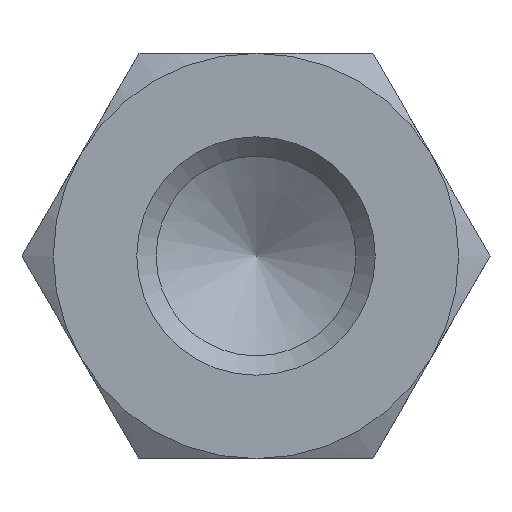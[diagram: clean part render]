
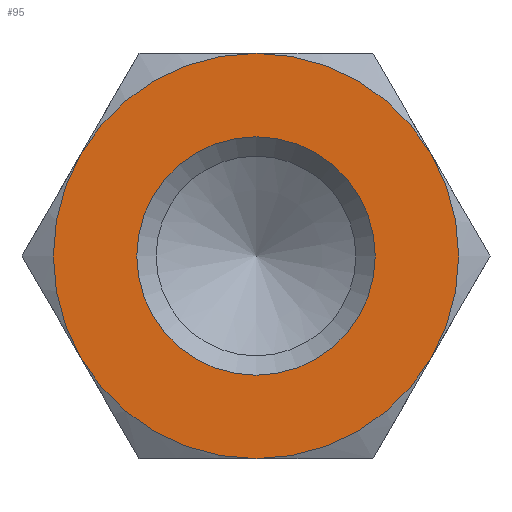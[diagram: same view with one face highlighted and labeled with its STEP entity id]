
A CAD part, left-side view. The second image highlights one B-rep face of the part: STEP entity #95.
In plain terms, the highlighted planar face has unit normal (-1, 0, 0).
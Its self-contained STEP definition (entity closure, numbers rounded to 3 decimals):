
#95 = ADVANCED_FACE( '', ( #147, #148 ), #149, .F. );
#147 = FACE_OUTER_BOUND( '', #206, .T. );
#148 = FACE_BOUND( '', #207, .T. );
#149 = PLANE( '', #208 );
#206 = EDGE_LOOP( '', ( #356, #357, #358, #359, #360, #361 ) );
#207 = EDGE_LOOP( '', ( #362 ) );
#208 = AXIS2_PLACEMENT_3D( '', #363, #364, #365 );
#356 = ORIENTED_EDGE( '', *, *, #440, .F. );
#357 = ORIENTED_EDGE( '', *, *, #425, .F. );
#358 = ORIENTED_EDGE( '', *, *, #441, .F. );
#359 = ORIENTED_EDGE( '', *, *, #437, .F. );
#360 = ORIENTED_EDGE( '', *, *, #442, .F. );
#361 = ORIENTED_EDGE( '', *, *, #443, .F. );
#362 = ORIENTED_EDGE( '', *, *, #439, .T. );
#363 = CARTESIAN_POINT( '', ( -25., 0., 0. ) );
#364 = DIRECTION( '', ( 1., 0., 0. ) );
#365 = DIRECTION( '', ( 0., 0., -1. ) );
#425 = EDGE_CURVE( '', #495, #493, #497, .T. );
#437 = EDGE_CURVE( '', #447, #506, #513, .T. );
#439 = EDGE_CURVE( '', #516, #516, #517, .T. );
#440 = EDGE_CURVE( '', #493, #486, #518, .T. );
#441 = EDGE_CURVE( '', #506, #495, #519, .T. );
#442 = EDGE_CURVE( '', #481, #447, #520, .T. );
#443 = EDGE_CURVE( '', #486, #481, #521, .T. );
#447 = VERTEX_POINT( '', #525 );
#481 = VERTEX_POINT( '', #607 );
#486 = VERTEX_POINT( '', #623 );
#493 = VERTEX_POINT( '', #650 );
#495 = VERTEX_POINT( '', #657 );
#497 = CIRCLE( '', #664, 8.5 );
#506 = VERTEX_POINT( '', #690 );
#513 = CIRCLE( '', #733, 8.5 );
#516 = VERTEX_POINT( '', #736 );
#517 = CIRCLE( '', #737, 5. );
#518 = CIRCLE( '', #738, 8.5 );
#519 = CIRCLE( '', #739, 8.5 );
#520 = CIRCLE( '', #740, 8.5 );
#521 = CIRCLE( '', #741, 8.5 );
#525 = CARTESIAN_POINT( '', ( -25., -7.361, 4.25 ) );
#607 = CARTESIAN_POINT( '', ( -25., 0., 8.5 ) );
#623 = CARTESIAN_POINT( '', ( -25., 7.361, 4.25 ) );
#650 = CARTESIAN_POINT( '', ( -25., 7.361, -4.25 ) );
#657 = CARTESIAN_POINT( '', ( -25., 0., -8.5 ) );
#664 = AXIS2_PLACEMENT_3D( '', #776, #777, #778 );
#690 = CARTESIAN_POINT( '', ( -25., -7.361, -4.25 ) );
#733 = AXIS2_PLACEMENT_3D( '', #781, #782, #783 );
#736 = CARTESIAN_POINT( '', ( -25., 0., -5. ) );
#737 = AXIS2_PLACEMENT_3D( '', #787, #788, #789 );
#738 = AXIS2_PLACEMENT_3D( '', #790, #791, #792 );
#739 = AXIS2_PLACEMENT_3D( '', #793, #794, #795 );
#740 = AXIS2_PLACEMENT_3D( '', #796, #797, #798 );
#741 = AXIS2_PLACEMENT_3D( '', #799, #800, #801 );
#776 = CARTESIAN_POINT( '', ( -25., 0., 0. ) );
#777 = DIRECTION( '', ( 1., 0., 0. ) );
#778 = DIRECTION( '', ( 0., 0., -1. ) );
#781 = CARTESIAN_POINT( '', ( -25., 0., 0. ) );
#782 = DIRECTION( '', ( 1., 0., 0. ) );
#783 = DIRECTION( '', ( 0., 0., -1. ) );
#787 = CARTESIAN_POINT( '', ( -25., 0., 0. ) );
#788 = DIRECTION( '', ( 1., 0., 0. ) );
#789 = DIRECTION( '', ( 0., 0., -1. ) );
#790 = CARTESIAN_POINT( '', ( -25., 0., 0. ) );
#791 = DIRECTION( '', ( 1., 0., 0. ) );
#792 = DIRECTION( '', ( 0., 0., -1. ) );
#793 = CARTESIAN_POINT( '', ( -25., 0., 0. ) );
#794 = DIRECTION( '', ( 1., 0., 0. ) );
#795 = DIRECTION( '', ( 0., 0., -1. ) );
#796 = CARTESIAN_POINT( '', ( -25., 0., 0. ) );
#797 = DIRECTION( '', ( 1., 0., 0. ) );
#798 = DIRECTION( '', ( 0., 0., -1. ) );
#799 = CARTESIAN_POINT( '', ( -25., 0., 0. ) );
#800 = DIRECTION( '', ( 1., 0., 0. ) );
#801 = DIRECTION( '', ( 0., 0., -1. ) );
